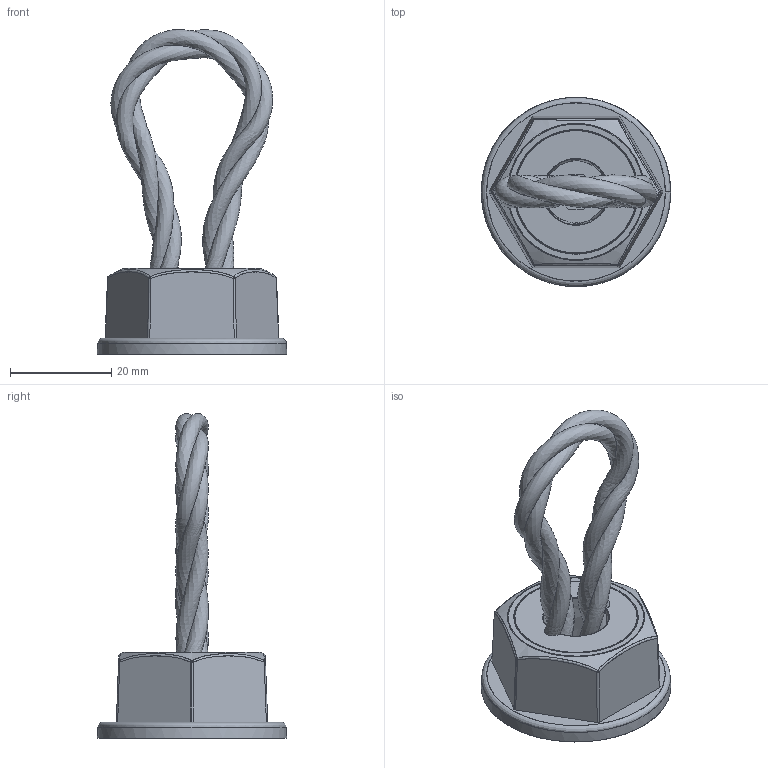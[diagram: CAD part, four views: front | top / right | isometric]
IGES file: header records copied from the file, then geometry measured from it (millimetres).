
Start section: C
Global section: file name: 8279-64.igs; native system: By Siemens PLM Incorporated; preprocessor: XPlus GENERIC/IGES 16.0.42; author: Author; organization: Title; date: 20210331.082759; units: millimetre
Bounding box: 37.4 x 37.35 x 64.12 mm (x, y, z)
Surface area: 9113.4 mm2 (no closed solid volume)
Topology: 0 solids, 0 shells, 115 faces, 722 edges, 722 vertices
Faces by surface type: bspline 115
